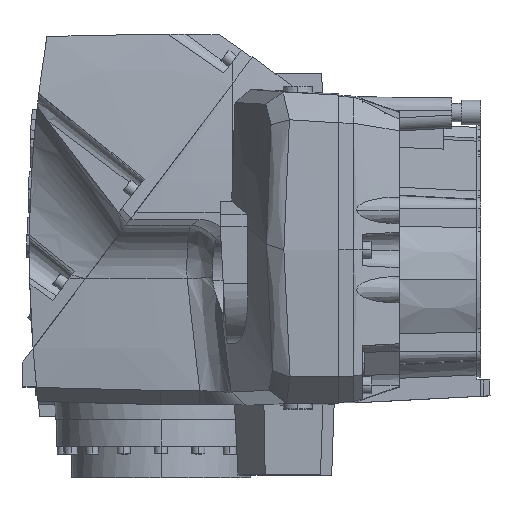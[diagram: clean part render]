
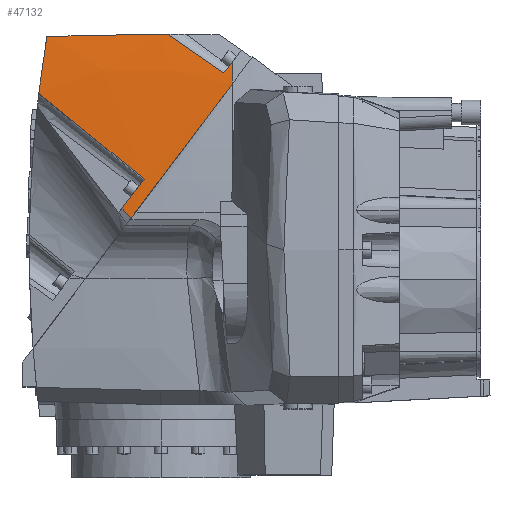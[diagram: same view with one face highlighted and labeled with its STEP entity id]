
A CAD part, top view. The second image highlights one B-rep face of the part: STEP entity #47132.
In plain terms, the highlighted toroidal (fillet/blend) face has major radius 999 mm and minor radius 1000 mm.
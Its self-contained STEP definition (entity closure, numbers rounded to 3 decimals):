
#956 = DIRECTION ( 'NONE',  ( 0., 0., -1. ) ) ;
#1095 = VERTEX_POINT ( 'NONE', #36123 ) ;
#1395 = ORIENTED_EDGE ( 'NONE', *, *, #38270, .F. ) ;
#1459 = CARTESIAN_POINT ( 'NONE',  ( 63.284, 185.154, 1491.019 ) ) ;
#2170 = CARTESIAN_POINT ( 'NONE',  ( 83.762, 120.44, 1501.299 ) ) ;
#2203 = CARTESIAN_POINT ( 'NONE',  ( 154.644, 186.995, 1495.093 ) ) ;
#2212 = ORIENTED_EDGE ( 'NONE', *, *, #24192, .T. ) ;
#2930 = VERTEX_POINT ( 'NONE', #17783 ) ;
#3568 = DIRECTION ( 'NONE',  ( 0., 0., -1. ) ) ;
#4034 = CARTESIAN_POINT ( 'NONE',  ( 120.539, 54.769, 1507.037 ) ) ;
#4868 = EDGE_CURVE ( 'NONE', #1095, #45399, #27592, .T. ) ;
#5781 = ORIENTED_EDGE ( 'NONE', *, *, #6061, .F. ) ;
#5795 = B_SPLINE_CURVE_WITH_KNOTS ( 'NONE', 3,
 ( #41525, #37905, #45839, #21775, #49871 ),
 .UNSPECIFIED., .F., .F.,
 ( 4, 1, 4 ),
 ( 0., 0.064, 0.128 ),
 .UNSPECIFIED. ) ;
#6061 = EDGE_CURVE ( 'NONE', #2930, #10864, #40224, .T. ) ;
#6412 = CARTESIAN_POINT ( 'NONE',  ( 154.321, 186.995, 1495.085 ) ) ;
#7323 = CARTESIAN_POINT ( 'NONE',  ( 122.738, 52.16, 1507.213 ) ) ;
#7469 = VERTEX_POINT ( 'NONE', #26749 ) ;
#7924 = EDGE_CURVE ( 'NONE', #45399, #8031, #41997, .T. ) ;
#8031 = VERTEX_POINT ( 'NONE', #25987 ) ;
#10620 = CARTESIAN_POINT ( 'NONE',  ( 153.805, 186.996, 1495.072 ) ) ;
#10864 = VERTEX_POINT ( 'NONE', #45573 ) ;
#12173 = TOROIDAL_SURFACE ( 'NONE', #19479, 999., 1000. ) ;
#12420 = CARTESIAN_POINT ( 'NONE',  ( 127.206, 47., 1507.524 ) ) ;
#13449 = B_SPLINE_CURVE_WITH_KNOTS ( 'NONE', 3,
 ( #37022, #43413, #16759, #44956 ),
 .UNSPECIFIED., .F., .F.,
 ( 4, 4 ),
 ( 0., 0.053 ),
 .UNSPECIFIED. ) ;
#14768 = CARTESIAN_POINT ( 'NONE',  ( 152.892, 186.998, 1495.048 ) ) ;
#15093 = ORIENTED_EDGE ( 'NONE', *, *, #17294, .T. ) ;
#16759 = CARTESIAN_POINT ( 'NONE',  ( 169.111, 177.14, 1497.094 ) ) ;
#17294 = EDGE_CURVE ( 'NONE', #8031, #7469, #5795, .T. ) ;
#17783 = CARTESIAN_POINT ( 'NONE',  ( 57.15, 142.069, 1496.725 ) ) ;
#17855 = CARTESIAN_POINT ( 'NONE',  ( 121.768, 187.015, 1494.216 ) ) ;
#18355 = CARTESIAN_POINT ( 'NONE',  ( 120.539, 54.769, 1507.037 ) ) ;
#18708 = CARTESIAN_POINT ( 'NONE',  ( 154.708, 186.995, 1495.095 ) ) ;
#18845 = CARTESIAN_POINT ( 'NONE',  ( 137.141, 76.8, 1506.712 ) ) ;
#18873 = CARTESIAN_POINT ( 'NONE',  ( 151.979, 186.999, 1495.024 ) ) ;
#19347 = B_SPLINE_CURVE_WITH_KNOTS ( 'NONE', 3,
 ( #21790, #30034, #17855, #46020 ),
 .UNSPECIFIED., .F., .F.,
 ( 4, 4 ),
 ( 0., 0.088 ),
 .UNSPECIFIED. ) ;
#19479 = AXIS2_PLACEMENT_3D ( 'NONE', #28263, #43965, #3568 ) ;
#19594 = EDGE_CURVE ( 'NONE', #37362, #23988, #35037, .T. ) ;
#20915 = CARTESIAN_POINT ( 'NONE',  ( 204., 165.525, 1499.043 ) ) ;
#20977 = CARTESIAN_POINT ( 'NONE',  ( 199.909, 160.096, 1499.812 ) ) ;
#21775 = CARTESIAN_POINT ( 'NONE',  ( 191.241, 131.977, 1503.453 ) ) ;
#21790 = CARTESIAN_POINT ( 'NONE',  ( 63.284, 185.154, 1491.019 ) ) ;
#22017 = ORIENTED_EDGE ( 'NONE', *, *, #38668, .T. ) ;
#22104 = CARTESIAN_POINT ( 'NONE',  ( 57.15, 142.069, 1496.725 ) ) ;
#22776 = VERTEX_POINT ( 'NONE', #39634 ) ;
#22779 = CARTESIAN_POINT ( 'NONE',  ( 57.15, 142.069, 1496.725 ) ) ;
#22973 = CARTESIAN_POINT ( 'NONE',  ( 151.067, 187., 1495. ) ) ;
#23039 = FACE_OUTER_BOUND ( 'NONE', #28216, .T. ) ;
#23988 = VERTEX_POINT ( 'NONE', #29529 ) ;
#24192 = EDGE_CURVE ( 'NONE', #23988, #22776, #13449, .T. ) ;
#24931 = B_SPLINE_CURVE_WITH_KNOTS ( 'NONE', 3,
 ( #46843, #18708, #2203, #31037, #6412, #35069, #10620, #39078, #14768, #43023, #18873, #47015, #22973 ),
 .UNSPECIFIED., .F., .F.,
 ( 4, 3, 3, 3, 4 ),
 ( 0., 0., 0.001, 0.002, 0.004 ),
 .UNSPECIFIED. ) ;
#25717 = DIRECTION ( 'NONE',  ( 1., 0., 0. ) ) ;
#25946 = ORIENTED_EDGE ( 'NONE', *, *, #35166, .F. ) ;
#25987 = CARTESIAN_POINT ( 'NONE',  ( 127.206, 47., 1507.524 ) ) ;
#26218 = CARTESIAN_POINT ( 'NONE',  ( 60.933, 170.874, 1493.209 ) ) ;
#26749 = CARTESIAN_POINT ( 'NONE',  ( 204., 148.909, 1501.299 ) ) ;
#27592 = B_SPLINE_CURVE_WITH_KNOTS ( 'NONE', 3,
 ( #46132, #45867, #45290, #48390 ),
 .UNSPECIFIED., .F., .F.,
 ( 4, 4 ),
 ( 0., 0.028 ),
 .UNSPECIFIED. ) ;
#28216 = EDGE_LOOP ( 'NONE', ( #1395, #38789, #2212, #44379, #25946, #5781, #22017, #36795, #32160, #15093 ) ) ;
#28263 = CARTESIAN_POINT ( 'NONE',  ( 204., 22.7, -489.705 ) ) ;
#28998 = CIRCLE ( 'NONE', #41959, 1000. ) ;
#29321 = VERTEX_POINT ( 'NONE', #37734 ) ;
#29529 = CARTESIAN_POINT ( 'NONE',  ( 197.862, 157.38, 1500.175 ) ) ;
#30034 = CARTESIAN_POINT ( 'NONE',  ( 92.507, 186.4, 1492.89 ) ) ;
#30137 = B_SPLINE_CURVE_WITH_KNOTS ( 'NONE', 3,
 ( #22779, #2170, #42998, #18845 ),
 .UNSPECIFIED., .F., .F.,
 ( 4, 4 ),
 ( 0., 0.104 ),
 .UNSPECIFIED. ) ;
#31037 = CARTESIAN_POINT ( 'NONE',  ( 154.579, 186.995, 1495.091 ) ) ;
#32160 = ORIENTED_EDGE ( 'NONE', *, *, #7924, .T. ) ;
#35037 = B_SPLINE_CURVE_WITH_KNOTS ( 'NONE', 3,
 ( #41088, #37106, #20977, #49064 ),
 .UNSPECIFIED., .F., .F.,
 ( 4, 4 ),
 ( 0.012, 0.022 ),
 .UNSPECIFIED. ) ;
#35069 = CARTESIAN_POINT ( 'NONE',  ( 154.063, 186.996, 1495.078 ) ) ;
#35166 = EDGE_CURVE ( 'NONE', #10864, #29321, #19347, .T. ) ;
#36123 = CARTESIAN_POINT ( 'NONE',  ( 137.141, 76.8, 1506.712 ) ) ;
#36795 = ORIENTED_EDGE ( 'NONE', *, *, #4868, .T. ) ;
#36805 = CARTESIAN_POINT ( 'NONE',  ( 124.959, 49.569, 1507.375 ) ) ;
#37022 = CARTESIAN_POINT ( 'NONE',  ( 197.862, 157.38, 1500.175 ) ) ;
#37106 = CARTESIAN_POINT ( 'NONE',  ( 201.955, 162.811, 1499.435 ) ) ;
#37362 = VERTEX_POINT ( 'NONE', #20915 ) ;
#37734 = CARTESIAN_POINT ( 'NONE',  ( 151.067, 187., 1495. ) ) ;
#37905 = CARTESIAN_POINT ( 'NONE',  ( 140.045, 64.038, 1507.603 ) ) ;
#38270 = EDGE_CURVE ( 'NONE', #37362, #7469, #28998, .T. ) ;
#38668 = EDGE_CURVE ( 'NONE', #2930, #1095, #30137, .T. ) ;
#38789 = ORIENTED_EDGE ( 'NONE', *, *, #19594, .T. ) ;
#39078 = CARTESIAN_POINT ( 'NONE',  ( 153.348, 186.997, 1495.06 ) ) ;
#39634 = CARTESIAN_POINT ( 'NONE',  ( 154.773, 186.994, 1495.096 ) ) ;
#40224 = B_SPLINE_CURVE_WITH_KNOTS ( 'NONE', 3,
 ( #22104, #46144, #26218, #1459 ),
 .UNSPECIFIED., .F., .F.,
 ( 4, 4 ),
 ( 0., 0.044 ),
 .UNSPECIFIED. ) ;
#41088 = CARTESIAN_POINT ( 'NONE',  ( 204., 165.525, 1499.043 ) ) ;
#41525 = CARTESIAN_POINT ( 'NONE',  ( 127.206, 47., 1507.524 ) ) ;
#41959 = AXIS2_PLACEMENT_3D ( 'NONE', #49698, #25717, #956 ) ;
#41963 = EDGE_CURVE ( 'NONE', #22776, #29321, #24931, .T. ) ;
#41997 = B_SPLINE_CURVE_WITH_KNOTS ( 'NONE', 3,
 ( #4034, #7323, #36805, #12420 ),
 .UNSPECIFIED., .F., .F.,
 ( 4, 4 ),
 ( 0., 0.01 ),
 .UNSPECIFIED. ) ;
#42998 = CARTESIAN_POINT ( 'NONE',  ( 110.425, 98.684, 1504.631 ) ) ;
#43023 = CARTESIAN_POINT ( 'NONE',  ( 152.436, 186.999, 1495.036 ) ) ;
#43413 = CARTESIAN_POINT ( 'NONE',  ( 183.475, 167.268, 1498.787 ) ) ;
#43965 = DIRECTION ( 'NONE',  ( 0., -1., 0. ) ) ;
#44379 = ORIENTED_EDGE ( 'NONE', *, *, #41963, .T. ) ;
#44956 = CARTESIAN_POINT ( 'NONE',  ( 154.773, 186.994, 1495.096 ) ) ;
#45290 = CARTESIAN_POINT ( 'NONE',  ( 126.074, 62.114, 1507.033 ) ) ;
#45399 = VERTEX_POINT ( 'NONE', #18355 ) ;
#45573 = CARTESIAN_POINT ( 'NONE',  ( 63.284, 185.154, 1491.019 ) ) ;
#45839 = CARTESIAN_POINT ( 'NONE',  ( 165.683, 98.06, 1506.643 ) ) ;
#45867 = CARTESIAN_POINT ( 'NONE',  ( 131.608, 69.457, 1506.924 ) ) ;
#46020 = CARTESIAN_POINT ( 'NONE',  ( 151.067, 187., 1495. ) ) ;
#46132 = CARTESIAN_POINT ( 'NONE',  ( 137.141, 76.8, 1506.712 ) ) ;
#46144 = CARTESIAN_POINT ( 'NONE',  ( 58.887, 156.513, 1495.112 ) ) ;
#46843 = CARTESIAN_POINT ( 'NONE',  ( 154.773, 186.994, 1495.096 ) ) ;
#47015 = CARTESIAN_POINT ( 'NONE',  ( 151.523, 186.999, 1495.012 ) ) ;
#47132 = ADVANCED_FACE ( 'NONE', ( #23039 ), #12173, .T. ) ;
#48390 = CARTESIAN_POINT ( 'NONE',  ( 120.539, 54.769, 1507.037 ) ) ;
#49064 = CARTESIAN_POINT ( 'NONE',  ( 197.862, 157.38, 1500.175 ) ) ;
#49698 = CARTESIAN_POINT ( 'NONE',  ( 204., 22.7, 509.295 ) ) ;
#49871 = CARTESIAN_POINT ( 'NONE',  ( 204., 148.909, 1501.299 ) ) ;
